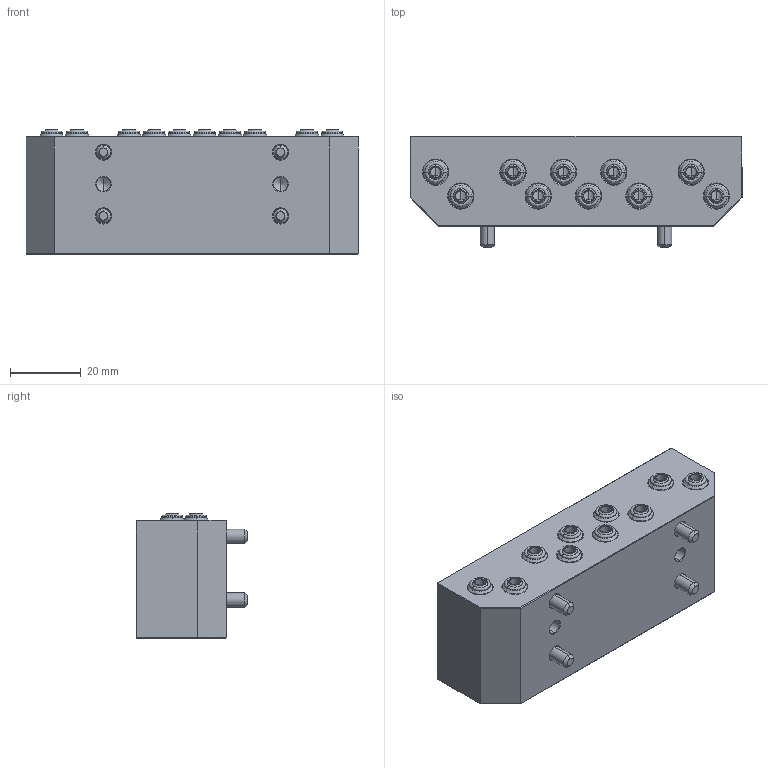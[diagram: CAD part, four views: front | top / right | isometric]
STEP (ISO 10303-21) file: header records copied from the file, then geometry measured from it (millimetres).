
FILE_DESCRIPTION (( 'STEP AP203' ), '1' );
FILE_NAME ('1QCAM-10M5R.STEP', '2024-03-14T08:17:40', ( '微软用户' ), ( '微软中国' ), 'SwSTEP 2.0', 'SolidWorks 2018', '' );
FILE_SCHEMA (( 'CONFIG_CONTROL_DESIGN' ));
Length unit declared in the file: millimetre
Products named in the file (1): 1QCAM-10M5R
Bounding box: 93.7 x 31.5 x 35.07 mm (x, y, z)
Volume: 73041.4 mm3; surface area: 20021 mm2
Topology: 1 solids, 11 shells, 508 faces, 1118 edges, 640 vertices
Faces by surface type: cone 180, cylinder 156, plane 124, bspline 48
Entity records: 14757 total; most frequent: CARTESIAN_POINT 3557, DIRECTION 2476, ORIENTED_EDGE 2188, EDGE_CURVE 1094, AXIS2_PLACEMENT_3D 989, VERTEX_POINT 640, EDGE_LOOP 580, CIRCLE 528
